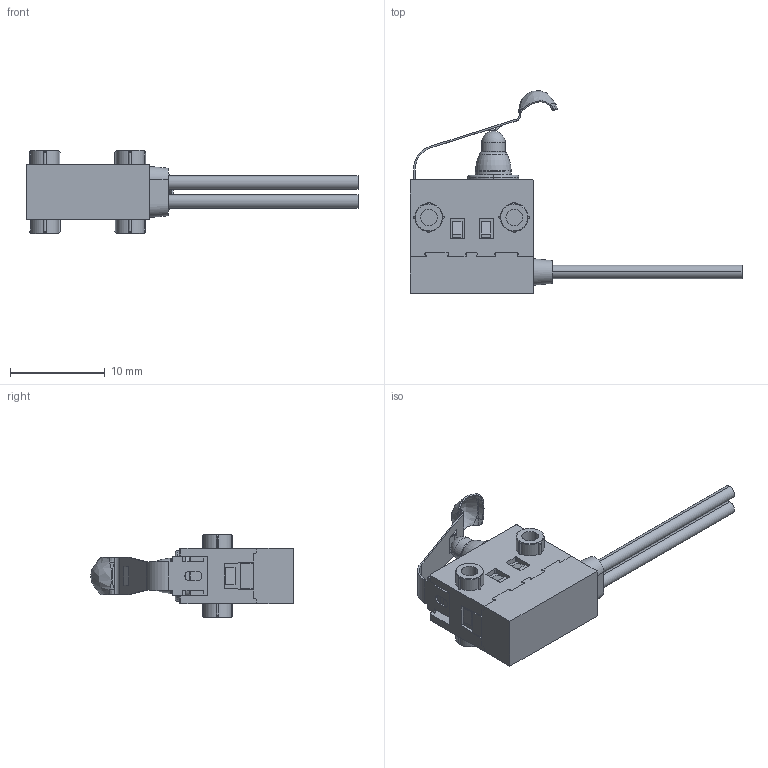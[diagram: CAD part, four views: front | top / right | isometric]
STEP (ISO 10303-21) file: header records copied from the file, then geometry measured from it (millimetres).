
FILE_DESCRIPTION (( 'STEP AP214' ), '1' );
FILE_NAME ('SPVQ351900.STEP', '2011-03-22T01:41:05', ( '' ), ( '' ), 'SwSTEP 2.0', 'SolidWorks 2007', '' );
FILE_SCHEMA (( 'AUTOMOTIVE_DESIGN' ));
Length unit declared in the file: millimetre
Products named in the file (1): SPVQ351900
Bounding box: 35 x 21.36 x 8.8 mm (x, y, z)
Volume: 1029.6 mm3; surface area: 1594.3 mm2
Topology: 1 solids, 1 shells, 454 faces, 1298 edges, 843 vertices
Faces by surface type: plane 244, cylinder 160, bspline 18, torus 18, cone 12, sphere 2
Entity records: 20741 total; most frequent: CARTESIAN_POINT 3846, ORIENTED_EDGE 2588, DIRECTION 2418, EDGE_CURVE 1294, VECTOR 844, LINE 844, VERTEX_POINT 841, AXIS2_PLACEMENT_3D 787
